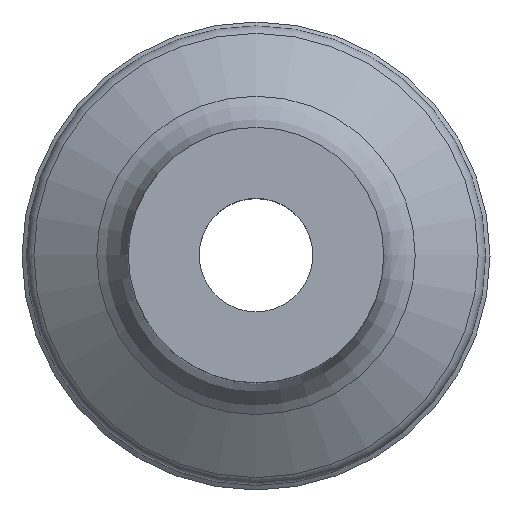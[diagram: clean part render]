
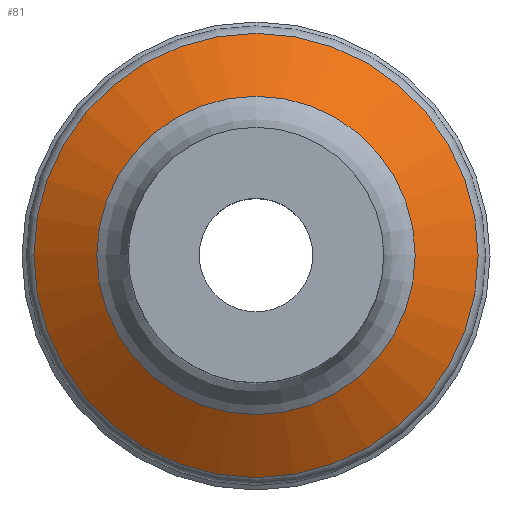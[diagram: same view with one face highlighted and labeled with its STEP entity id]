
A CAD part, top view. The second image highlights one B-rep face of the part: STEP entity #81.
In plain terms, the highlighted conical face has half-angle 56.201 degrees and reference radius 13.439 mm.
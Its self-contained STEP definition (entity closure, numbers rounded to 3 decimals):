
#81=ADVANCED_FACE('',(#180,#181),#182,.T.);
#180=FACE_OUTER_BOUND('',#321,.T.);
#181=FACE_BOUND('',#322,.T.);
#182=CONICAL_SURFACE('',#323,13.439,0.981);
#321=EDGE_LOOP('',(#485));
#322=EDGE_LOOP('',(#486));
#323=AXIS2_PLACEMENT_3D('',#487,#488,#489);
#485=ORIENTED_EDGE('',*,*,#574,.F.);
#486=ORIENTED_EDGE('',*,*,#558,.T.);
#487=CARTESIAN_POINT('',(0.0,0.,22.483));
#488=DIRECTION('',(0.0,0.,-1.0));
#489=DIRECTION('',(1.0,0.0,0.0));
#558=EDGE_CURVE('',#622,#622,#623,.T.);
#574=EDGE_CURVE('',#646,#646,#647,.T.);
#622=VERTEX_POINT('',#697);
#623=CIRCLE('',#698,11.22);
#646=VERTEX_POINT('',#721);
#647=CIRCLE('',#722,15.658);
#697=CARTESIAN_POINT('',(11.22,0.,23.968));
#698=AXIS2_PLACEMENT_3D('',#777,#778,#779);
#721=CARTESIAN_POINT('',(15.658,0.,20.998));
#722=AXIS2_PLACEMENT_3D('',#801,#802,#803);
#777=CARTESIAN_POINT('',(0.0,0.,23.968));
#778=DIRECTION('',(0.0,0.,-1.0));
#779=DIRECTION('',(1.0,0.0,0.0));
#801=CARTESIAN_POINT('',(0.0,0.,20.998));
#802=DIRECTION('',(0.0,0.,-1.0));
#803=DIRECTION('',(1.0,0.0,0.0));
